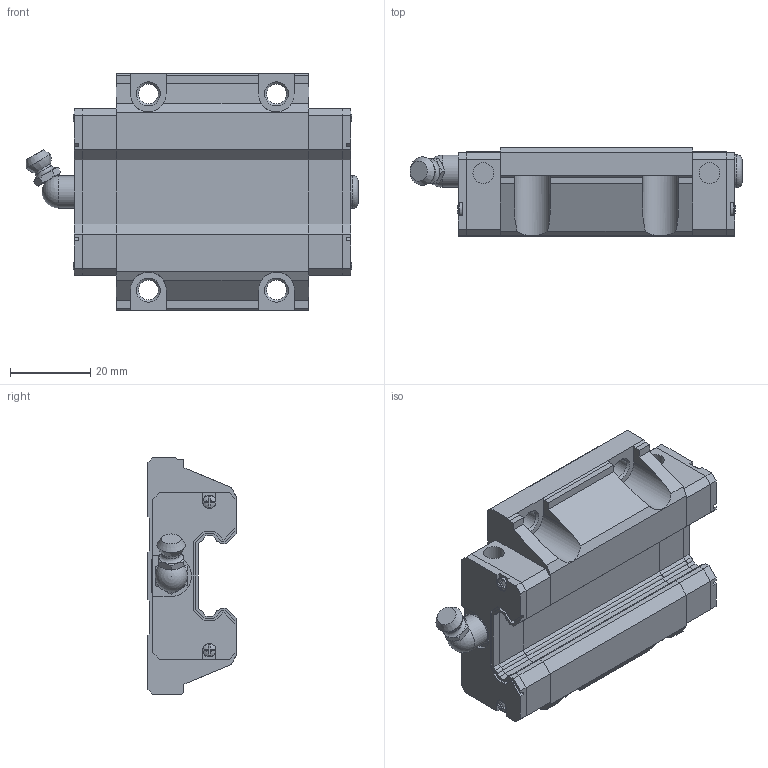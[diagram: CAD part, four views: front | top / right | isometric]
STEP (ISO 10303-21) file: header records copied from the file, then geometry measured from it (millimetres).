
FILE_DESCRIPTION(('FreeCAD Model'),'2;1');
FILE_NAME('Open CASCADE Shape Model','2024-12-05T10:36:21',('Author'),( ''),'Open CASCADE STEP processor 7.6','FreeCAD','Unknown');
FILE_SCHEMA(('AUTOMOTIVE_DESIGN { 1 0 10303 214 1 1 1 1 }'));
Length unit declared in the file: millimetre
Products named in the file (7): EW20CC; _GEW20CC_slider; _GEC20_C002; _GEC20_P002; _GH20_SCREW004; _GH20_BOLT001; _GH20-_G001
Assembly tree (11 placements, depth 2):
  EW20CC
    _GEW20CC_slider
    _GEC20_C002  x2
    _GEC20_P002  x2
    _GH20_SCREW004  x4
    _GH20_BOLT001
    _GH20-_G001
Bounding box: 82.9 x 22 x 59 mm (x, y, z)
Volume: 58785 mm3; surface area: 21308.9 mm2
Topology: 11 solids, 11 shells, 424 faces, 1141 edges, 749 vertices
Faces by surface type: plane 333, cylinder 55, cone 24, torus 6, sphere 5, bspline 1
Full cylindrical faces by diameter (mm): 2.3 x4, 3.414 x4, 4.5 x1, 4.917 x4, 5.2 x4, 6 x2, 6.5 x2, 7.2 x2, 8 x1, 8.2 x1
Entity records: 8501 total; most frequent: CARTESIAN_POINT 1647, ORIENTED_EDGE 1410, DIRECTION 1315, EDGE_CURVE 705, LINE 517, VECTOR 517, VERTEX_POINT 461, AXIS2_PLACEMENT_3D 399
